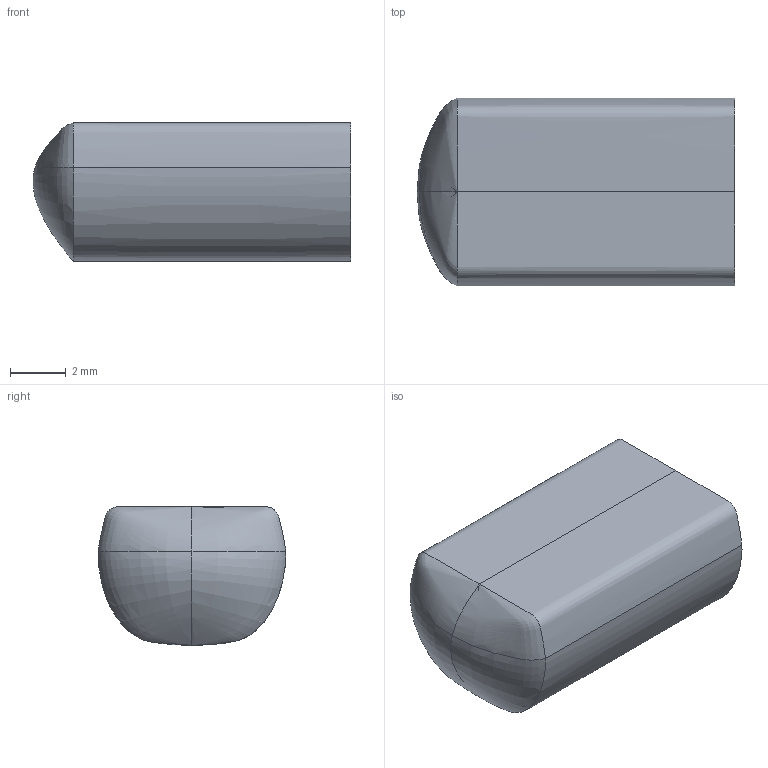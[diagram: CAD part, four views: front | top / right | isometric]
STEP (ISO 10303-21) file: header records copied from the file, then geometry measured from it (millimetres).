
FILE_DESCRIPTION((''),'2;1');
FILE_NAME('DE-TGC4','2004-11-23T',('gsawatzky'),(''),'PRO/ENGINEER BY PARAMETRIC TECHNOLOGY CORPORATION, 2002390','PRO/ENGINEER BY PARAMETRIC TECHNOLOGY CORPORATION, 2002390','');
FILE_SCHEMA(('CONFIG_CONTROL_DESIGN'));
Length unit declared in the file: millimetre
Products named in the file (1): DE-TGC4
Bounding box: 11.44 x 6.77 x 4.99 mm (x, y, z)
Surface area: 238.9 mm2 (no closed solid volume)
Topology: 0 solids, 0 shells, 8 faces, 32 edges, 28 vertices
Faces by surface type: bspline 8
Entity records: 2085 total; most frequent: CARTESIAN_POINT 1792, DIRECTION 32, VECTOR 32, LINE 32, TRIMMED_CURVE 32, DEFINITIONAL_REPRESENTATION 28, PCURVE 28, COMPOSITE_CURVE_SEGMENT 28
